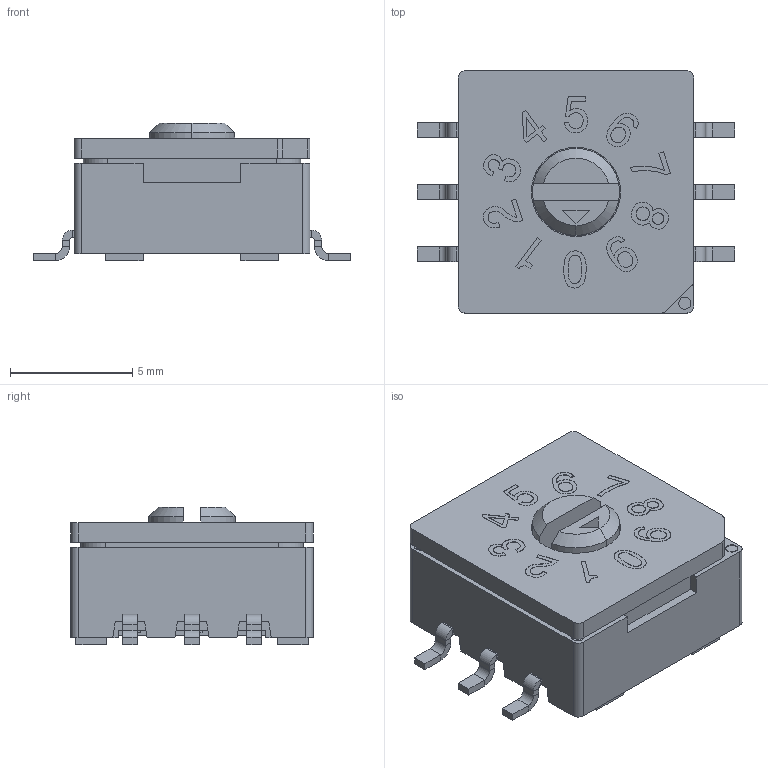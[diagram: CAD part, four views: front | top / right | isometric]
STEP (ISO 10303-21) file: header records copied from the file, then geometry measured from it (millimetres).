
FILE_DESCRIPTION (( 'STEP AP203' ), '1' );
FILE_NAME ('RSF-AARM.STEP', '2015-01-27T13:26:41', ( 'Austin' ), ( 'Hewlett-Packard' ), 'SwSTEP 2.0', 'SolidWorks 2008', '' );
FILE_SCHEMA (( 'CONFIG_CONTROL_DESIGN' ));
Length unit declared in the file: millimetre
Products named in the file (10): COVER_10P; COVER_預設; RSF-AARM; BASE_SMD; BASE_預設; TERMINAL_SMD; 10P_預設; ROTOR_10P-A; ROTOR_A; CODE-10_預設
Assembly tree (9 placements, depth 3):
  RSF-AARM
    COVER_10P
      10P_預設
      COVER_預設
    BASE_SMD
      TERMINAL_SMD
      BASE_預設
    ROTOR_10P-A
      ROTOR_A
      CODE-10_預設
Bounding box: 13 x 9.91 x 5.64 mm (x, y, z)
Volume: 345.6 mm3; surface area: 1230 mm2
Topology: 15 solids, 15 shells, 971 faces, 2511 edges, 1619 vertices
Faces by surface type: plane 612, cylinder 196, bspline 152, cone 7, torus 4
Entity records: 38904 total; most frequent: CARTESIAN_POINT 15111, ORIENTED_EDGE 5022, DIRECTION 4186, EDGE_CURVE 2511, VECTOR 1686, LINE 1686, VERTEX_POINT 1619, AXIS2_PLACEMENT_3D 1250
